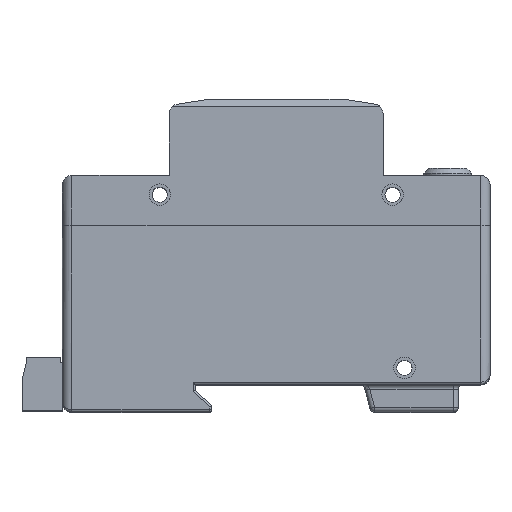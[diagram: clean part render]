
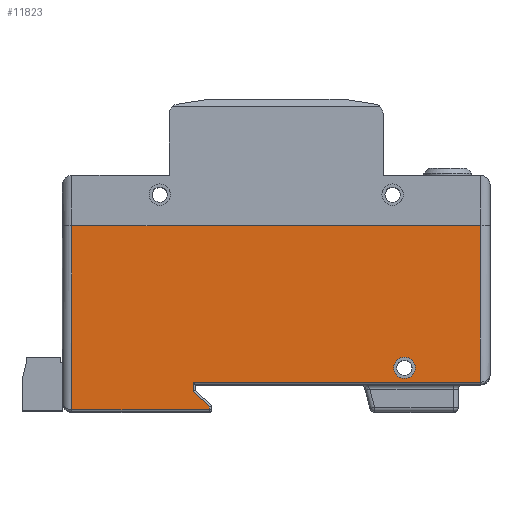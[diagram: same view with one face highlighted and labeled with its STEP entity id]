
A CAD part, top view. The second image highlights one B-rep face of the part: STEP entity #11823.
In plain terms, the highlighted planar face has unit normal (0, 0, 1).
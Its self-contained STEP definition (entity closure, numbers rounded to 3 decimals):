
#397=CIRCLE('',#12830,2.25);
#398=CIRCLE('',#12831,2.25);
#761=FACE_BOUND('',#1816,.T.);
#1104=FACE_OUTER_BOUND('',#1815,.T.);
#1815=EDGE_LOOP('',(#9139,#9140,#9141,#9142,#9143,#9144,#9145,#9146));
#1816=EDGE_LOOP('',(#9147,#9148));
#2832=LINE('',#18519,#4129);
#2902=LINE('',#18682,#4199);
#2908=LINE('',#18697,#4205);
#2909=LINE('',#18699,#4206);
#2910=LINE('',#18701,#4207);
#2911=LINE('',#18703,#4208);
#2912=LINE('',#18705,#4209);
#2913=LINE('',#18706,#4210);
#4129=VECTOR('',#14832,10.);
#4199=VECTOR('',#14962,10.);
#4205=VECTOR('',#14976,10.);
#4206=VECTOR('',#14977,10.);
#4207=VECTOR('',#14978,10.);
#4208=VECTOR('',#14979,10.);
#4209=VECTOR('',#14980,10.);
#4210=VECTOR('',#14981,10.);
#5318=VERTEX_POINT('',#18516);
#5319=VERTEX_POINT('',#18518);
#5382=VERTEX_POINT('',#18680);
#5387=VERTEX_POINT('',#18696);
#5388=VERTEX_POINT('',#18698);
#5389=VERTEX_POINT('',#18700);
#5390=VERTEX_POINT('',#18702);
#5391=VERTEX_POINT('',#18704);
#5392=VERTEX_POINT('',#18707);
#5393=VERTEX_POINT('',#18708);
#6658=EDGE_CURVE('',#5319,#5318,#2832,.T.);
#6741=EDGE_CURVE('',#5382,#5318,#2902,.T.);
#6748=EDGE_CURVE('',#5387,#5382,#2908,.T.);
#6749=EDGE_CURVE('',#5388,#5387,#2909,.T.);
#6750=EDGE_CURVE('',#5389,#5388,#2910,.T.);
#6751=EDGE_CURVE('',#5390,#5389,#2911,.T.);
#6752=EDGE_CURVE('',#5391,#5390,#2912,.T.);
#6753=EDGE_CURVE('',#5319,#5391,#2913,.T.);
#6754=EDGE_CURVE('',#5392,#5393,#397,.T.);
#6755=EDGE_CURVE('',#5393,#5392,#398,.T.);
#9139=ORIENTED_EDGE('',*,*,#6658,.T.);
#9140=ORIENTED_EDGE('',*,*,#6741,.F.);
#9141=ORIENTED_EDGE('',*,*,#6748,.F.);
#9142=ORIENTED_EDGE('',*,*,#6749,.F.);
#9143=ORIENTED_EDGE('',*,*,#6750,.F.);
#9144=ORIENTED_EDGE('',*,*,#6751,.F.);
#9145=ORIENTED_EDGE('',*,*,#6752,.F.);
#9146=ORIENTED_EDGE('',*,*,#6753,.F.);
#9147=ORIENTED_EDGE('',*,*,#6754,.T.);
#9148=ORIENTED_EDGE('',*,*,#6755,.T.);
#11258=PLANE('',#12829);
#11823=ADVANCED_FACE('',(#1104,#761),#11258,.T.);
#12829=AXIS2_PLACEMENT_3D('',#18695,#14974,#14975);
#12830=AXIS2_PLACEMENT_3D('',#18709,#14982,#14983);
#12831=AXIS2_PLACEMENT_3D('',#18710,#14984,#14985);
#14832=DIRECTION('',(-1.,0.,0.));
#14962=DIRECTION('',(0.,1.,0.));
#14974=DIRECTION('center_axis',(0.,0.,1.));
#14975=DIRECTION('ref_axis',(1.,0.,0.));
#14976=DIRECTION('',(-1.,0.,0.));
#14977=DIRECTION('',(0.,-1.,0.));
#14978=DIRECTION('',(0.718,-0.696,0.));
#14979=DIRECTION('',(0.,-1.,0.));
#14980=DIRECTION('',(-1.,0.,0.));
#14981=DIRECTION('',(0.,-1.,0.));
#14982=DIRECTION('center_axis',(0.,0.,-1.));
#14983=DIRECTION('ref_axis',(1.,0.,0.));
#14984=DIRECTION('center_axis',(0.,0.,-1.));
#14985=DIRECTION('ref_axis',(1.,0.,0.));
#18516=CARTESIAN_POINT('',(-43.,3.4,35.2));
#18518=CARTESIAN_POINT('',(43.,3.4,35.2));
#18519=CARTESIAN_POINT('',(0.046,3.4,35.2));
#18680=CARTESIAN_POINT('',(-43.,-35.3,35.2));
#18682=CARTESIAN_POINT('',(-43.,4.121,35.2));
#18695=CARTESIAN_POINT('Origin',(-0.355,-5.758,35.2));
#18696=CARTESIAN_POINT('',(-14.1,-35.3,35.2));
#18697=CARTESIAN_POINT('',(-22.678,-35.3,35.2));
#18698=CARTESIAN_POINT('',(-14.1,-34.711,35.2));
#18699=CARTESIAN_POINT('',(-14.1,-20.779,35.2));
#18700=CARTESIAN_POINT('',(-17.5,-31.411,35.2));
#18701=CARTESIAN_POINT('',(-17.721,-31.197,35.2));
#18702=CARTESIAN_POINT('',(-17.5,-29.5,35.2));
#18703=CARTESIAN_POINT('',(-17.5,-18.479,35.2));
#18704=CARTESIAN_POINT('',(43.,-29.5,35.2));
#18705=CARTESIAN_POINT('',(18.972,-29.5,35.2));
#18706=CARTESIAN_POINT('',(43.,-17.879,35.2));
#18707=CARTESIAN_POINT('',(29.25,-26.5,35.2));
#18708=CARTESIAN_POINT('',(24.75,-26.5,35.2));
#18709=CARTESIAN_POINT('Origin',(27.,-26.5,35.2));
#18710=CARTESIAN_POINT('Origin',(27.,-26.5,35.2));
